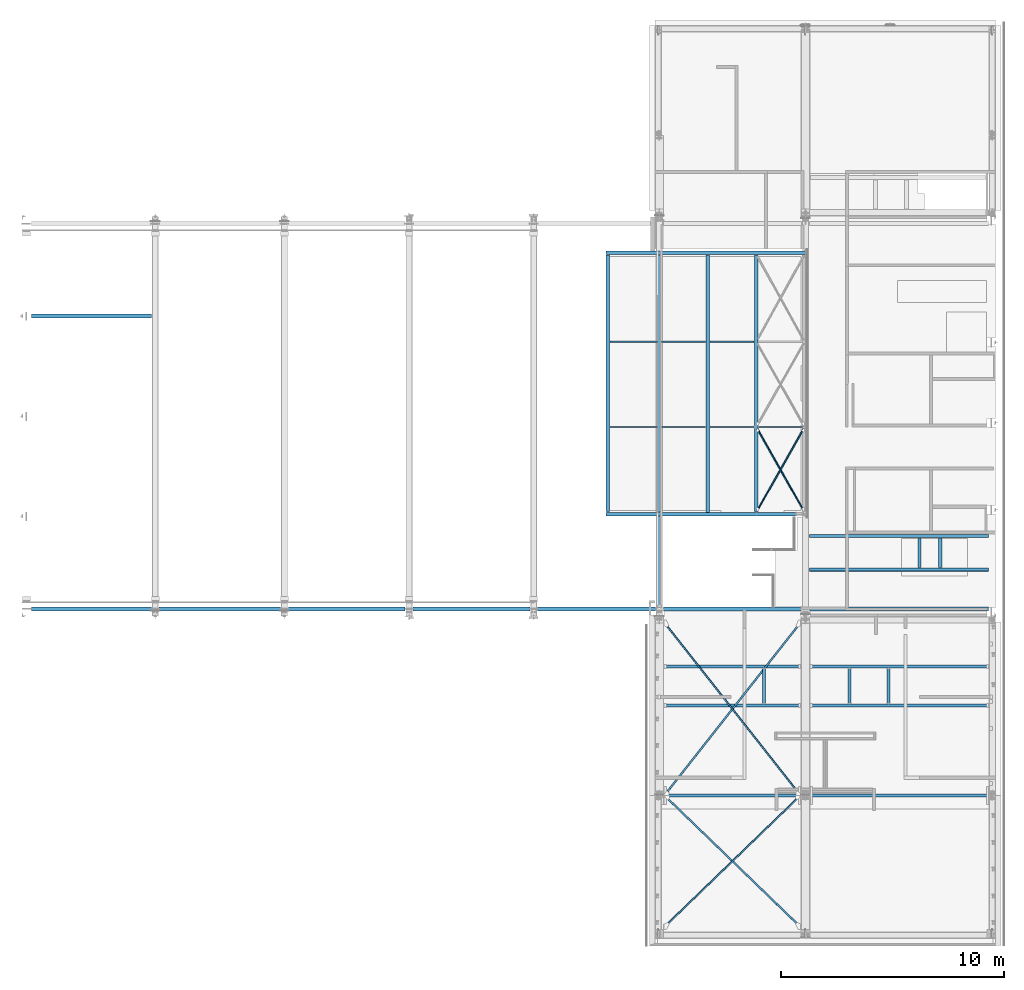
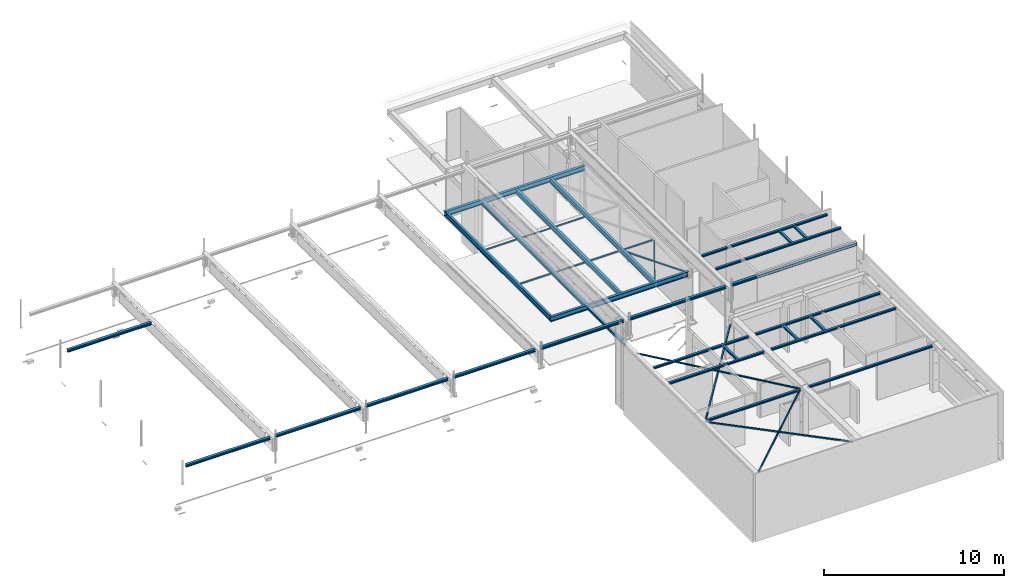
# One storey, part 6 of 186: 41 beams.
"""IFC4X3_ADD2 building model written with IfcOpenShell, lengths in millimetres."""

import ifcopenshell
import ifcopenshell.guid

model = None  # the IFC model being written
_history = None  # IfcOwnerHistory: only IFC2X3 demands one
_inside = {}  # id of a spatial element -> (the spatial element, [elements in it])
_under = {}  # id of a project, library or spatial element -> (it, [spatial elements below it])
_declared = {}  # id of a project -> (the project, [libraries it declares])
_typed = {}  # id of a type object -> (the type object, [elements of that type])
_made_of = {}  # id of a material, layer set ... -> (it, [elements and type objects made of it])


def new_model(schema):
    """Start an empty IFC model of exactly this schema.

    Asked for "IFC4X3", IfcOpenShell would pick the latest addendum, in which some entities
    have other attributes; the version numbers below select the first issue.
    IFC2X3 requires an IfcOwnerHistory on every rooted entity: one is made here for all.
    """
    global model, _history
    if schema == "IFC4X3":
        model = ifcopenshell.file(schema_version=(4, 3, 0, 0))
    else:
        model = ifcopenshell.file(schema=schema)
    _inside.clear()
    _under.clear()
    _declared.clear()
    _typed.clear()
    _made_of.clear()
    _history = None
    if model.schema == "IFC2X3":
        org = make("IfcOrganization", Name="unknown")
        user = make(
            "IfcPersonAndOrganization",
            ThePerson=make("IfcPerson", FamilyName="unknown"),
            TheOrganization=org,
        )
        app = make(
            "IfcApplication",
            ApplicationDeveloper=org,
            Version="unknown",
            ApplicationFullName="unknown",
            ApplicationIdentifier="unknown",
        )
        _history = make(
            "IfcOwnerHistory",
            OwningUser=user,
            OwningApplication=app,
            ChangeAction="ADDED",
            CreationDate=0,
        )
    return model


def make(cls, **values):
    """One entity of the class cls with the attributes given. An attribute that is None is left unset."""
    return model.create_entity(
        cls, **{name: value for name, value in values.items() if value is not None}
    )


def rooted(cls, **values):
    """An entity with a GlobalId (a new one), such as an element, a storey or a relation."""
    return make(cls, GlobalId=ifcopenshell.guid.new(), OwnerHistory=_history, **values)


def si_unit(unit_type, name, prefix=None):
    """IfcSIUnit, for example si_unit("LENGTHUNIT", "METRE", prefix="MILLI")."""
    return make("IfcSIUnit", UnitType=unit_type, Prefix=prefix, Name=name)


def assignment(units):
    """IfcUnitAssignment: the units of a project."""
    return None if units is None else make("IfcUnitAssignment", Units=units)


def point(xyz):
    """IfcCartesianPoint."""
    return None if xyz is None else make("IfcCartesianPoint", Coordinates=xyz)


def direction(xyz):
    """IfcDirection."""
    return None if xyz is None else make("IfcDirection", DirectionRatios=xyz)


def frame(location, z_axis=None, x_axis=None):
    """IfcAxis2Placement3D, a coordinate frame: its origin and axes. An axis left out is left unset."""
    return make(
        "IfcAxis2Placement3D",
        Location=point(location),
        Axis=direction(z_axis),
        RefDirection=direction(x_axis),
    )


def frame_2d(location, x_axis=None):
    """IfcAxis2Placement2D, a coordinate frame in the plane: its origin and x axis."""
    return make(
        "IfcAxis2Placement2D", Location=point(location), RefDirection=direction(x_axis)
    )


def origin_with_axes():
    """The frame at (0, 0, 0) with the z axis (0, 0, 1) and the x axis (1, 0, 0) written out."""
    return frame((0.0, 0.0, 0.0), z_axis=(0.0, 0.0, 1.0), x_axis=(1.0, 0.0, 0.0))


def place(relative_to, where):
    """IfcLocalPlacement: puts the frame where relative to a parent placement (None: the world)."""
    return make(
        "IfcLocalPlacement", PlacementRelTo=relative_to, RelativePlacement=where
    )


def context(
    kind, dimensions, precision=None, world=None, true_north=None, identifier=None
):
    """IfcGeometricRepresentationContext, for example the 3D "Model" context."""
    return make(
        "IfcGeometricRepresentationContext",
        ContextIdentifier=identifier,
        ContextType=kind,
        CoordinateSpaceDimension=dimensions,
        Precision=precision,
        WorldCoordinateSystem=world,
        TrueNorth=true_north,
    )


def subcontext(parent, identifier, kind, view, scale=None):
    """IfcGeometricRepresentationSubContext, for example "Body" below "Model"."""
    return make(
        "IfcGeometricRepresentationSubContext",
        ContextIdentifier=identifier,
        ContextType=kind,
        ParentContext=parent,
        TargetScale=scale,
        TargetView=view,
    )


def project(units=None, contexts=None):
    """IfcProject with its units and contexts."""
    return rooted(
        "IfcProject",
        Name="project",
        RepresentationContexts=contexts,
        UnitsInContext=assignment(units),
    )


def spatial(cls, under=None, at=None, **own):
    """A site, building, storey or space (cls), placed at a placement, below another one or the project."""
    s = rooted(cls, ObjectPlacement=at, **own)
    if under is not None:
        _under.setdefault(under.id(), (under, []))[1].append(s)
    return s


def polyline(points):
    """IfcPolyline through the points."""
    return make("IfcPolyline", Points=[point(p) for p in points])


def circle_curve(where, radius):
    """IfcCircle in the frame where."""
    return make("IfcCircle", Position=where, Radius=radius)


def trimmed(basis, trim1, trim2, sense, master):
    """IfcTrimmedCurve: the piece of a basis curve between two trims."""
    return make(
        "IfcTrimmedCurve",
        BasisCurve=basis,
        Trim1=trim1,
        Trim2=trim2,
        SenseAgreement=sense,
        MasterRepresentation=master,
    )


def segment(curve, same_sense, transition):
    """IfcCompositeCurveSegment."""
    return make(
        "IfcCompositeCurveSegment",
        Transition=transition,
        SameSense=same_sense,
        ParentCurve=curve,
    )


def composite_curve(segments, self_intersect=None):
    """IfcCompositeCurve: segments joined end to end."""
    return make("IfcCompositeCurve", Segments=segments, SelfIntersect=self_intersect)


def profile(cls, at=None, kind="AREA", **sizes):
    """A parametric profile (cls). Its sizes go by their IFC names, for example OverallWidth=200.0."""
    return make(cls, ProfileType=kind, Position=at, **sizes)


def i_section(**sizes):
    """IfcIShapeProfileDef."""
    return profile("IfcIShapeProfileDef", **sizes)


def l_section(**sizes):
    """IfcLShapeProfileDef."""
    return profile("IfcLShapeProfileDef", **sizes)


def outline(outer, holes=None, kind="AREA"):
    """IfcArbitraryClosedProfileDef: a profile drawn as a closed curve; with holes, ...WithVoids."""
    if holes is None:
        return make("IfcArbitraryClosedProfileDef", ProfileType=kind, OuterCurve=outer)
    return make(
        "IfcArbitraryProfileDefWithVoids",
        ProfileType=kind,
        OuterCurve=outer,
        InnerCurves=holes,
    )


def extrude(swept, where, along, depth):
    """IfcExtrudedAreaSolid: the profile swept, set in the frame where, extruded along a direction by depth."""
    return make(
        "IfcExtrudedAreaSolid",
        SweptArea=swept,
        Position=where,
        ExtrudedDirection=direction(along),
        Depth=depth,
    )


def boolean(op, a, b):
    """IfcBooleanResult of two solids."""
    return make("IfcBooleanResult", Operator=op, FirstOperand=a, SecondOperand=b)


def shape(context_of_items, identifier, shape_type, items):
    """IfcShapeRepresentation: the items that make up one representation, for example the "Body"."""
    return make(
        "IfcShapeRepresentation",
        ContextOfItems=context_of_items,
        RepresentationIdentifier=identifier,
        RepresentationType=shape_type,
        Items=items,
    )


def material(Name=None, Category=None):
    """IfcMaterial."""
    return make("IfcMaterial", Name=Name, Category=Category)


def made_of(thing, what):
    """Note that an element or type object is made of a material, layer set ...; save() writes the relation."""
    if what is not None:
        _made_of.setdefault(what.id(), (what, []))[1].append(thing)
    return thing


def type_object(cls, material=None, **own):
    """A type object (cls), such as IfcWallType, which elements share."""
    return made_of(rooted(cls, **own), material)


def element(
    cls,
    number,
    at=None,
    inside=None,
    cuts=None,
    type_object=None,
    material=None,
    context=None,
    identifier="Body",
    shape_type=None,
    held_by="IfcProductDefinitionShape",
    body=None,
    shapes=None,
    **own,
):
    """One element of the class cls, such as IfcWall. Its Tag is "e" and its number.

    at: its placement. inside: the storey or other place that contains it. cuts: it is an
    opening in that element (IfcRelVoidsElement). A single representation is given by context,
    identifier, shape_type and body (its items); several are given by shapes. held_by: the class
    of the entity that holds the representations. save() writes the other relations.
    """
    e = rooted(cls, Tag="e%d" % number, ObjectPlacement=at, **own)
    if body is not None:
        shapes = [shape(context, identifier, shape_type, body)]
    if shapes is not None:
        e.Representation = make(held_by, Representations=shapes)
    if inside is not None:
        _inside.setdefault(inside.id(), (inside, []))[1].append(e)
    if cuts is not None:
        rooted(
            "IfcRelVoidsElement", RelatingBuildingElement=cuts, RelatedOpeningElement=e
        )
    if type_object is not None:
        _typed.setdefault(type_object.id(), (type_object, []))[1].append(e)
    return made_of(e, material)


def aggregate(whole, parts):
    """IfcRelAggregates: a whole, such as a stair, and the parts it consists of."""
    return rooted("IfcRelAggregates", RelatingObject=whole, RelatedObjects=parts)


def save(model, path):
    """Write the relations noted so far, then the file.

    IfcRelAggregates (storeys below a building ...), IfcRelContainedInSpatialStructure (elements
    in a storey), IfcRelDefinesByType, IfcRelAssociatesMaterial and IfcRelDeclares: one each for
    every whole, place, type object, material and project.
    """
    for whole, parts in _under.values():
        aggregate(whole, parts)
    for where, things in _inside.values():
        rooted(
            "IfcRelContainedInSpatialStructure",
            RelatedElements=things,
            RelatingStructure=where,
        )
    for kind, things in _typed.values():
        rooted("IfcRelDefinesByType", RelatedObjects=things, RelatingType=kind)
    for what, things in _made_of.values():
        rooted("IfcRelAssociatesMaterial", RelatedObjects=things, RelatingMaterial=what)
    for by, libraries in _declared.values():
        rooted("IfcRelDeclares", RelatingContext=by, RelatedDefinitions=libraries)
    model.write(path)


model = new_model("IFC4X3_ADD2")

# Units and contexts
model_context = context("Model", 3, precision=1e-05, world=origin_with_axes(), true_north=direction((0.0, 1.0)))
body_context = subcontext(model_context, "Body", "Model", "MODEL_VIEW")
ifc_project = project(units=[si_unit("LENGTHUNIT", "METRE", prefix="MILLI"), si_unit("AREAUNIT", "SQUARE_METRE"), si_unit("VOLUMEUNIT", "CUBIC_METRE"), si_unit("PLANEANGLEUNIT", "RADIAN"), si_unit("TIMEUNIT", "SECOND"), si_unit("MASSUNIT", "GRAM")], contexts=[model_context])

# Site, building, storey
site_placement = place(None, origin_with_axes())
site = spatial("IfcSite", under=ifc_project, at=site_placement, Name="Site", CompositionType="ELEMENT")
building_placement = place(site_placement, origin_with_axes())
building = spatial("IfcBuilding", under=site, at=building_placement, Name="IFC Building Story")
storey_placement = place(building_placement, frame((0.0, 0.0, 4370.0), z_axis=(0.0, 0.0, 1.0), x_axis=(1.0, 0.0, 0.0)))
storey = spatial("IfcBuildingStorey", under=building, at=storey_placement, Name="ETAGE 10 (1)", Elevation=4370.0)

# Beams
ifc_material = material(Name="BS_28_Métal")
beam_type = type_object("IfcBeamType", Name="L60x4", PredefinedType="NOTDEFINED")
beam_1_placement = place(storey_placement, frame((37801.0503464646, 4758.135299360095, 3105.999999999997), z_axis=(0.4924042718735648, 0.8703666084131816, 0.0), x_axis=(0.0, 0.0, -1.0)))
element("IfcBeam", 1, at=beam_1_placement, inside=storey, type_object=beam_type, material=ifc_material, Name="BS_28_SF_LE_Cornière à ailes égales:L60x4", ObjectType="L60x4", context=body_context, shape_type="CSG", body=[
    boolean("UNION", boolean("DIFFERENCE", extrude(l_section(Depth=60.0, Width=60.00000000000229, Thickness=3.999999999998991, FilletRadius=8.00000000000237, EdgeRadius=3.00000000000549, LegSlope=0.0, at=frame_2d((0.0, 5.95523630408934e-12), x_axis=(1.0, 0.0))), origin_with_axes(), (0.0, 0.0, 1.0), 4224.735897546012), extrude(outline(composite_curve([segment(trimmed(circle_curve(frame_2d((-27.28571428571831, -0.428571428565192), x_axis=(1.0, 0.0)), 3.000000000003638), [point((-27.28571428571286, -3.428571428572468))], [point((-24.28571428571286, -0.428571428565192))], True, "CARTESIAN"), True, "CONTINUOUS"), segment(polyline([(-24.28571428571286, -0.428571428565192), (-24.28571428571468, 8.571428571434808)]), True, "CONTINUOUS"), segment(trimmed(circle_curve(frame_2d((-16.28571428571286, 8.571428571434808), x_axis=(1.0, 0.0)), 8.000000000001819), [point((-24.28571428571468, 8.571428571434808))], [point((-16.28571428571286, 0.571428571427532))], True, "CARTESIAN"), True, "CONTINUOUS"), segment(polyline([(-16.28571428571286, 0.571428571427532), (28.7142857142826, 0.571428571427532)]), True, "CONTINUOUS"), segment(trimmed(circle_curve(frame_2d((28.7142857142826, -2.428571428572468), x_axis=(1.0, 0.0)), 3.000000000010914), [point((28.7142857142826, 0.571428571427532))], [point((31.71428571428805, -2.428571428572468))], False, "CARTESIAN"), True, "CONTINUOUS"), segment(polyline([(31.71428571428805, -2.428571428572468), (31.71428571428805, -3.428571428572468)]), True, "CONTINUOUS"), segment(polyline([(31.71428571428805, -3.428571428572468), (-27.28571428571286, -3.428571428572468)]), True, "CONTINUOUS")], self_intersect=False)), frame((-1.714285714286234, -26.57142857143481, 0.0), z_axis=(0.0, 0.0, 1.0), x_axis=(1.0, 0.0, 0.0)), (0.0, 0.0, 1.0), 4224.735897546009)), extrude(outline(composite_curve([segment(trimmed(circle_curve(frame_2d((-27.28571428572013, 0.4285714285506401), x_axis=(1.0, 0.0)), 3.000000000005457), [point((-24.28571428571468, 0.4285714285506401))], [point((-27.28571428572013, 3.428571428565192))], True, "CARTESIAN"), True, "CONTINUOUS"), segment(polyline([(-27.28571428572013, 3.428571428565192), (31.71428571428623, 3.428571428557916)]), True, "CONTINUOUS"), segment(polyline([(31.71428571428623, 3.428571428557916), (31.71428571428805, 2.428571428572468)]), True, "CONTINUOUS"), segment(trimmed(circle_curve(frame_2d((28.7142857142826, 2.428571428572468), x_axis=(1.0, 0.0)), 3.000000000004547), [point((31.71428571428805, 2.428571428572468))], [point((28.71428571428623, -0.571428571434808))], False, "CARTESIAN"), True, "CONTINUOUS"), segment(polyline([(28.71428571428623, -0.571428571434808), (-16.28571428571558, -0.571428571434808)]), True, "CONTINUOUS"), segment(trimmed(circle_curve(frame_2d((-16.28571428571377, -8.571428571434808), x_axis=(1.0, 0.0)), 8.0), [point((-16.28571428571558, -0.571428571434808))], [point((-24.28571428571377, -8.571428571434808))], True, "CARTESIAN"), True, "CONTINUOUS"), segment(polyline([(-24.28571428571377, -8.571428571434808), (-24.28571428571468, 0.4285714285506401)]), True, "CONTINUOUS")], self_intersect=False)), frame((-1.714285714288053, 26.57142857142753, 1.818989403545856e-12), z_axis=(0.0, 0.0, 1.0), x_axis=(1.0, 0.0, 0.0)), (0.0, 0.0, 1.0), 4224.735897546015)),
])
beam_2_placement = place(storey_placement, frame((37801.05034646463, 8435.204353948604, 3170.0), z_axis=(0.4924042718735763, -0.870366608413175, 0.0), x_axis=(-0.870366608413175, -0.4924042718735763, 0.0)))
element("IfcBeam", 2, at=beam_2_placement, inside=storey, type_object=beam_type, material=ifc_material, Name="BS_28_SF_LE_Cornière à ailes égales:L60x4", ObjectType="L60x4", context=body_context, shape_type="CSG", body=[
    boolean("UNION", boolean("DIFFERENCE", extrude(l_section(Depth=60.0, Width=60.00000000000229, Thickness=3.999999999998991, FilletRadius=8.00000000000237, EdgeRadius=3.00000000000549, LegSlope=0.0, at=frame_2d((0.0, 5.95523630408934e-12), x_axis=(1.0, 0.0))), origin_with_axes(), (0.0, 0.0, 1.0), 4224.735897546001), extrude(outline(composite_curve([segment(polyline([(-24.28571428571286, -0.428571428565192), (-24.28571428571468, 8.571428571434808)]), True, "CONTINUOUS"), segment(trimmed(circle_curve(frame_2d((-16.28571428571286, 8.571428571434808), x_axis=(1.0, 0.0)), 8.0), [point((-24.28571428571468, 8.571428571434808))], [point((-16.28571428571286, 0.571428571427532))], True, "CARTESIAN"), True, "CONTINUOUS"), segment(polyline([(-16.28571428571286, 0.571428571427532), (28.7142857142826, 0.571428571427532)]), True, "CONTINUOUS"), segment(trimmed(circle_curve(frame_2d((28.7142857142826, -2.428571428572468), x_axis=(1.0, 0.0)), 3.000000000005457), [point((28.7142857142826, 0.571428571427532))], [point((31.71428571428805, -2.428571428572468))], False, "CARTESIAN"), True, "CONTINUOUS"), segment(polyline([(31.71428571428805, -2.428571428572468), (31.71428571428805, -3.428571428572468)]), True, "CONTINUOUS"), segment(polyline([(31.71428571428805, -3.428571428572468), (-27.28571428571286, -3.428571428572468)]), True, "CONTINUOUS"), segment(trimmed(circle_curve(frame_2d((-27.28571428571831, -0.428571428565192), x_axis=(1.0, 0.0)), 3.000000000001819), [point((-27.28571428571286, -3.428571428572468))], [point((-24.28571428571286, -0.428571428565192))], True, "CARTESIAN"), True, "CONTINUOUS")], self_intersect=False)), frame((-1.714285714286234, -26.57142857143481, 0.0), z_axis=(0.0, 0.0, 1.0), x_axis=(1.0, 0.0, 0.0)), (0.0, 0.0, 1.0), 4224.735897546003)), extrude(outline(composite_curve([segment(polyline([(-24.28571428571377, -8.571428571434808), (-24.28571428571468, 0.4285714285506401)]), True, "CONTINUOUS"), segment(trimmed(circle_curve(frame_2d((-27.28571428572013, 0.4285714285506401), x_axis=(1.0, 0.0)), 3.000000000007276), [point((-24.28571428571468, 0.4285714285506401))], [point((-27.28571428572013, 3.428571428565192))], True, "CARTESIAN"), True, "CONTINUOUS"), segment(polyline([(-27.28571428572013, 3.428571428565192), (31.71428571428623, 3.428571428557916)]), True, "CONTINUOUS"), segment(polyline([(31.71428571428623, 3.428571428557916), (31.71428571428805, 2.428571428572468)]), True, "CONTINUOUS"), segment(trimmed(circle_curve(frame_2d((28.7142857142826, 2.428571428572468), x_axis=(1.0, 0.0)), 3.0), [point((31.71428571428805, 2.428571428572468))], [point((28.71428571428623, -0.571428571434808))], False, "CARTESIAN"), True, "CONTINUOUS"), segment(polyline([(28.71428571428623, -0.571428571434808), (-16.28571428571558, -0.571428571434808)]), True, "CONTINUOUS"), segment(trimmed(circle_curve(frame_2d((-16.28571428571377, -8.571428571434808), x_axis=(1.0, 0.0)), 8.0), [point((-16.28571428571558, -0.571428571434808))], [point((-24.28571428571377, -8.571428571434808))], True, "CARTESIAN"), True, "CONTINUOUS")], self_intersect=False)), frame((-1.714285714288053, 26.57142857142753, 1.818989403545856e-12), z_axis=(0.0, 0.0, 1.0), x_axis=(1.0, 0.0, 0.0)), (0.0, 0.0, 1.0), 4224.735897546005)),
])
beam_3_placement = place(storey_placement, frame((10581.1893482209, 344.5794044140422, 4916.221120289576), z_axis=(-1.0, 0.0, 0.0), x_axis=(0.0, -0.9998873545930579, 0.01500926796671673)))
element("IfcBeam", 3, at=beam_3_placement, inside=storey, material=ifc_material, Name="BS_28_SF_LE_HE-A:HEA180", ObjectType="HEA180", context=body_context, shape_type="SweptSolid", body=[
    extrude(i_section(OverallWidth=180.0, OverallDepth=170.999999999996, WebThickness=5.999999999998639, FlangeThickness=9.50000000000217, FilletRadius=15.0000000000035, at=frame_2d((0.0, 5.95523630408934e-12), x_axis=(1.0, 0.0))), origin_with_axes(), (0.0, 0.0, 1.0), 5395.000000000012),
])
beam_4_placement = place(storey_placement, frame((16381.18884822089, 344.5794044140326, 4916.221120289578), z_axis=(-1.0, 0.0, 0.0), x_axis=(0.0, -0.9998873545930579, 0.01500926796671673)))
element("IfcBeam", 4, at=beam_4_placement, inside=storey, material=ifc_material, Name="BS_28_SF_LE_HE-A:HEA180", ObjectType="HEA180", context=body_context, shape_type="SweptSolid", body=[
    extrude(i_section(OverallWidth=180.0, OverallDepth=170.999999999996, WebThickness=5.999999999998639, FlangeThickness=9.50000000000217, FilletRadius=15.0000000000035, at=frame_2d((0.0, 5.95523630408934e-12), x_axis=(1.0, 0.0))), origin_with_axes(), (0.0, 0.0, 1.0), 5450.000000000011),
])
beam_5_placement = place(storey_placement, frame((21981.18884822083, 344.579329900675, 4916.223094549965), z_axis=(-1.0, 0.0, 0.0), x_axis=(0.0, -0.9998873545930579, 0.01500926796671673)))
element("IfcBeam", 5, at=beam_5_placement, inside=storey, material=ifc_material, Name="BS_28_SF_LE_HE-A:HEA180", ObjectType="HEA180", context=body_context, shape_type="SweptSolid", body=[
    extrude(i_section(OverallWidth=180.0, OverallDepth=170.999999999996, WebThickness=5.999999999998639, FlangeThickness=9.50000000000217, FilletRadius=15.0000000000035, at=frame_2d((0.0, 5.95523630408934e-12), x_axis=(1.0, 0.0))), origin_with_axes(), (0.0, 0.0, 1.0), 5250.000000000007),
])
beam_6_placement = place(storey_placement, frame((27581.18884821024, 344.579329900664, 4916.223094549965), z_axis=(-1.0, 0.0, 0.0), x_axis=(0.0, -0.9998873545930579, 0.01500926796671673)))
element("IfcBeam", 6, at=beam_6_placement, inside=storey, material=ifc_material, Name="BS_28_SF_LE_HE-A:HEA180", ObjectType="HEA180", context=body_context, shape_type="SweptSolid", body=[
    extrude(i_section(OverallWidth=180.0, OverallDepth=170.999999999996, WebThickness=5.999999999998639, FlangeThickness=9.50000000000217, FilletRadius=15.0000000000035, at=frame_2d((0.0, 5.95523630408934e-12), x_axis=(1.0, 0.0))), origin_with_axes(), (0.0, 0.0, 1.0), 5250.000000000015),
])
beam_7_placement = place(storey_placement, frame((33231.18884822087, 344.5793299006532, 4916.223094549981), z_axis=(-1.0, 0.0, 0.0), x_axis=(0.0, -0.9998873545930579, 0.01500926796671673)))
element("IfcBeam", 7, at=beam_7_placement, inside=storey, material=ifc_material, Name="BS_28_SF_LE_HE-A:HEA180", ObjectType="HEA180", context=body_context, shape_type="SweptSolid", body=[
    extrude(i_section(OverallWidth=180.0, OverallDepth=170.999999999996, WebThickness=5.999999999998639, FlangeThickness=9.50000000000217, FilletRadius=15.0000000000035, at=frame_2d((0.0, 5.95523630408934e-12), x_axis=(1.0, 0.0))), origin_with_axes(), (0.0, 0.0, 1.0), 5299.966051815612),
])
beam_8_placement = place(storey_placement, frame((39791.18884821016, 344.5794340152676, 4916.223092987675), z_axis=(-1.0, 0.0, 0.0), x_axis=(0.0, -0.9998873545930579, 0.01500926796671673)))
element("IfcBeam", 8, at=beam_8_placement, inside=storey, material=ifc_material, Name="BS_28_SF_LE_HE-A:HEA180", ObjectType="HEA180", context=body_context, shape_type="SweptSolid", body=[
    extrude(i_section(OverallWidth=180.0, OverallDepth=170.999999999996, WebThickness=5.999999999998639, FlangeThickness=9.50000000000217, FilletRadius=15.0000000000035, at=frame_2d((0.0, 5.95523630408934e-12), x_axis=(1.0, 0.0))), origin_with_axes(), (0.0, 0.0, 1.0), 6210.000000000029),
])
beam_9_placement = place(storey_placement, frame((48191.1888482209, 344.5794340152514, 4916.223092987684), z_axis=(-1.0, 0.0, 0.0), x_axis=(0.0, -0.9998873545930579, 0.01500926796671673)))
element("IfcBeam", 9, at=beam_9_placement, inside=storey, material=ifc_material, Name="BS_28_SF_LE_HE-A:HEA180", ObjectType="HEA180", context=body_context, shape_type="SweptSolid", body=[
    extrude(i_section(OverallWidth=180.0, OverallDepth=170.999999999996, WebThickness=5.999999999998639, FlangeThickness=9.50000000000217, FilletRadius=15.0000000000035, at=frame_2d((0.0, 5.95523630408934e-12), x_axis=(1.0, 0.0))), origin_with_axes(), (0.0, 0.0, 1.0), 8045.000000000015),
])
beam_10_placement = place(storey_placement, frame((31081.1893483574, 4708.809479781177, 3224.999999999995), z_axis=(0.0, 1.0, 0.0), x_axis=(-1.0, 0.0, 0.0)))
element("IfcBeam", 10, at=beam_10_placement, inside=storey, material=ifc_material, Name="BS_28_SF_LE_IPE:IPE330", ObjectType="IPE330", context=body_context, shape_type="SweptSolid", body=[
    extrude(i_section(OverallWidth=159.999999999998, OverallDepth=330.000000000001, WebThickness=7.50000000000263, FlangeThickness=11.5000000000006, FilletRadius=18.0000000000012, at=frame_2d((0.0, 5.95523630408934e-12), x_axis=(1.0, 0.0))), origin_with_axes(), (0.0, 0.0, 1.0), 11525.720693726),
])
beam_11_placement = place(storey_placement, frame((31001.6894784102, 16344.5000000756, 3224.999999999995), z_axis=(1.0, 0.0, 0.0), x_axis=(0.0, 1.0, 0.0)))
element("IfcBeam", 11, at=beam_11_placement, inside=storey, material=ifc_material, Name="BS_28_SF_LE_IPE:IPE330", ObjectType="IPE330", context=body_context, shape_type="SweptSolid", body=[
    extrude(i_section(OverallWidth=159.999999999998, OverallDepth=330.000000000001, WebThickness=7.50000000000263, FlangeThickness=11.5000000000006, FilletRadius=18.0000000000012, at=frame_2d((0.0, 5.95523630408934e-12), x_axis=(1.0, 0.0))), origin_with_axes(), (0.0, 0.0, 1.0), 9015.499999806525),
])
beam_12_placement = place(storey_placement, frame((31001.6894781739, 4598.839653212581, 3224.999999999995), z_axis=(1.0, 0.0, 0.0), x_axis=(0.0, 1.0, 0.0)))
element("IfcBeam", 12, at=beam_12_placement, inside=storey, material=ifc_material, Name="BS_28_SF_LE_IPE:IPE330", ObjectType="IPE330", context=body_context, shape_type="SweptSolid", body=[
    extrude(i_section(OverallWidth=159.999999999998, OverallDepth=330.000000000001, WebThickness=7.50000000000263, FlangeThickness=11.5000000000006, FilletRadius=18.0000000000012, at=frame_2d((0.0, 5.95523630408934e-12), x_axis=(1.0, 0.0))), origin_with_axes(), (0.0, 0.0, 1.0), 8828.999870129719),
])
beam_13_placement = place(storey_placement, frame((33401.1893482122, 4708.809479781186, 3224.999999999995), z_axis=(0.0, 1.0, 0.0), x_axis=(-1.0, 0.0, 0.0)))
element("IfcBeam", 13, at=beam_13_placement, inside=storey, material=ifc_material, Name="BS_28_SF_LE_IPE:IPE330", ObjectType="IPE330", context=body_context, shape_type="SweptSolid", body=[
    extrude(i_section(OverallWidth=159.999999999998, OverallDepth=330.000000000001, WebThickness=7.50000000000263, FlangeThickness=11.5000000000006, FilletRadius=18.0000000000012, at=frame_2d((0.0, 5.95523630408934e-12), x_axis=(1.0, 0.0))), origin_with_axes(), (0.0, 0.0, 1.0), 11525.720693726),
])
beam_14_placement = place(storey_placement, frame((35576.1893482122, 4678.820531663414, 3224.999999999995), z_axis=(0.0, 1.0, 0.0), x_axis=(-1.0, 0.0, 0.0)))
element("IfcBeam", 14, at=beam_14_placement, inside=storey, material=ifc_material, Name="BS_28_SF_LE_IPE:IPE330", ObjectType="IPE330", context=body_context, shape_type="SweptSolid", body=[
    extrude(i_section(OverallWidth=159.999999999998, OverallDepth=330.000000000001, WebThickness=7.50000000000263, FlangeThickness=11.5000000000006, FilletRadius=18.0000000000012, at=frame_2d((0.0, 5.95523630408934e-12), x_axis=(1.0, 0.0))), origin_with_axes(), (0.0, 0.0, 1.0), 11555.728763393),
])
beam_15_placement = place(storey_placement, frame((40191.20335809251, -8034.782657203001, 3050.254321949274), z_axis=(1.0, 0.0, 0.0), x_axis=(0.0, 0.9998873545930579, -0.01500926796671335)))
element("IfcBeam", 15, at=beam_15_placement, inside=storey, material=ifc_material, Name="BS_28_SF_LE_HE-A:HEA140", ObjectType="HEA140", context=body_context, shape_type="SweptSolid", body=[
    extrude(i_section(OverallWidth=140.0, OverallDepth=133.000000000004, WebThickness=5.499999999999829, FlangeThickness=8.49999999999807, FilletRadius=11.9999999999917, at=frame_2d((0.0, 5.95523630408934e-12), x_axis=(1.0, 0.0))), origin_with_axes(), (0.0, 0.0, 1.0), 7995.98763944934),
])
beam_16_placement = place(storey_placement, frame((33626.23560970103, -8034.782552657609, 3050.254320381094), z_axis=(1.0, 0.0, 0.0), x_axis=(0.0, 0.9998873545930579, -0.01500926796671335)))
element("IfcBeam", 16, at=beam_16_placement, inside=storey, material=ifc_material, Name="BS_28_SF_LE_HE-A:HEA140", ObjectType="HEA140", context=body_context, shape_type="SweptSolid", body=[
    extrude(i_section(OverallWidth=140.0, OverallDepth=133.000000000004, WebThickness=5.499999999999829, FlangeThickness=8.49999999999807, FilletRadius=11.9999999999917, at=frame_2d((0.0, 5.95523630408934e-12), x_axis=(1.0, 0.0))), origin_with_axes(), (0.0, 0.0, 1.0), 6114.901779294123),
])
beam_17_placement = place(storey_placement, frame((39693.04455674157, -8080.56852886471, 3094.267108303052), z_axis=(-0.7191126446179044, -0.6948384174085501, 0.008750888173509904), x_axis=(0.694893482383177, -0.7190597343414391, 0.008726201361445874)))
element("IfcBeam", 17, at=beam_17_placement, inside=storey, material=ifc_material, Name="BS_28_SF_LE_Cornière à ailes égales:L80x8", ObjectType="L80x8", context=body_context, shape_type="SweptSolid", body=[
    extrude(l_section(Depth=80.0000000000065, Width=80.00000000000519, Thickness=7.999999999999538, FilletRadius=9.99999999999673, EdgeRadius=4.99999999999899, LegSlope=0.0, at=frame_2d((0.0, 5.95523630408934e-12), x_axis=(1.0, 0.0))), origin_with_axes(), (0.0, 0.0, 1.0), 8369.647385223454),
])
beam_18_placement = place(storey_placement, frame((38096.1893482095, -3899.49435631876, 3153.569700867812), z_axis=(0.0, 0.9998724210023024, -0.01597315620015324), x_axis=(-1.0, 0.0, 0.0)))
element("IfcBeam", 18, at=beam_18_placement, inside=storey, material=ifc_material, Name="BS_28_SF_LE_HE-A:HEA140", ObjectType="HEA140", context=body_context, shape_type="SweptSolid", body=[
    extrude(i_section(OverallWidth=140.0, OverallDepth=133.000000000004, WebThickness=5.499999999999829, FlangeThickness=8.49999999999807, FilletRadius=11.9999999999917, at=frame_2d((0.0, 5.95523630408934e-12), x_axis=(1.0, 0.0))), origin_with_axes(), (0.0, 0.0, 1.0), 1560.000132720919),
])
beam_19_placement = place(storey_placement, frame((10581.18934822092, 13500.22767781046, 4718.888425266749), z_axis=(-1.0, 0.0, 0.0), x_axis=(0.0, -0.9998873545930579, 0.01500926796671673)))
element("IfcBeam", 19, at=beam_19_placement, inside=storey, material=ifc_material, Name="BS_28_SF_LE_HE-A:HEA180", ObjectType="HEA180", context=body_context, shape_type="SweptSolid", body=[
    extrude(i_section(OverallWidth=180.0, OverallDepth=170.999999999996, WebThickness=5.999999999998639, FlangeThickness=9.50000000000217, FilletRadius=15.0000000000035, at=frame_2d((0.0, 5.95523630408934e-12), x_axis=(1.0, 0.0))), origin_with_axes(), (0.0, 0.0, 1.0), 5395.00000000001),
])
beam_20_placement = place(storey_placement, frame((33659.74594538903, -316.6325194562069, 2959.495971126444), z_axis=(0.6188833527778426, -0.7853611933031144, 0.01382720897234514), x_axis=(-0.001703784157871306, 0.01626120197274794, 0.9998663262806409)))
element("IfcBeam", 20, at=beam_20_placement, inside=storey, material=ifc_material, Name="BS_28_SF_LE_Cornière à ailes égales:L80x8", ObjectType="L80x8", context=body_context, shape_type="SweptSolid", body=[
    extrude(l_section(Depth=80.0000000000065, Width=80.00000000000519, Thickness=7.999999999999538, FilletRadius=9.99999999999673, EdgeRadius=4.99999999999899, LegSlope=0.0, at=frame_2d((0.0, 5.95523630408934e-12), x_axis=(1.0, 0.0))), origin_with_axes(), (0.0, 0.0, 1.0), 9772.471414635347),
])
beam_21_placement = place(storey_placement, frame((48181.18934820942, -3989.452121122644, 3155.048610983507), z_axis=(-1.0, 0.0, 0.0), x_axis=(0.0, -0.9998710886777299, 0.016056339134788)))
element("IfcBeam", 21, at=beam_21_placement, inside=storey, material=ifc_material, Name="BS_28_SF_LE_HE-A:HEA140", ObjectType="HEA140", context=body_context, shape_type="SweptSolid", body=[
    extrude(i_section(OverallWidth=140.0, OverallDepth=133.000000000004, WebThickness=5.499999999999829, FlangeThickness=8.49999999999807, FilletRadius=11.9999999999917, at=frame_2d((0.0, 5.95523630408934e-12), x_axis=(1.0, 0.0))), origin_with_axes(), (0.0, 0.0, 1.0), 7995.026741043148),
])
beam_22_placement = place(storey_placement, frame((33401.1893482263, 420.0198266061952, 3195.50000000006), z_axis=(0.0, 1.0, 0.0), x_axis=(-1.0, 0.0, 0.0)))
element("IfcBeam", 22, at=beam_22_placement, inside=storey, material=ifc_material, Name="BS_28_SF_LE_HE-A:HEA180", ObjectType="HEA180", context=body_context, shape_type="SweptSolid", body=[
    extrude(i_section(OverallWidth=180.0, OverallDepth=170.999999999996, WebThickness=5.999999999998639, FlangeThickness=9.50000000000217, FilletRadius=15.0000000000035, at=frame_2d((0.0, 5.95523630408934e-12), x_axis=(1.0, 0.0))), origin_with_axes(), (0.0, 0.0, 1.0), 4079.98017339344),
])
beam_23_placement = place(storey_placement, frame((39736.18934820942, -3989.419645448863, 3155.05044554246), z_axis=(-1.0, 0.0, 0.0), x_axis=(0.0, -0.9998710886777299, 0.016056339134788)))
element("IfcBeam", 23, at=beam_23_placement, inside=storey, material=ifc_material, Name="BS_28_SF_LE_HE-A:HEA140", ObjectType="HEA140", context=body_context, shape_type="SweptSolid", body=[
    extrude(i_section(OverallWidth=140.0, OverallDepth=133.000000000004, WebThickness=5.499999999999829, FlangeThickness=8.49999999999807, FilletRadius=11.9999999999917, at=frame_2d((0.0, 5.95523630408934e-12), x_axis=(1.0, 0.0))), origin_with_axes(), (0.0, 0.0, 1.0), 6110.000000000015),
])
beam_24_placement = place(storey_placement, frame((43691.18934820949, -3899.429400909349, 3153.620397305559), z_axis=(0.0, 0.9998721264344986, -0.01599158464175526), x_axis=(-1.0, 0.0, 0.0)))
element("IfcBeam", 24, at=beam_24_placement, inside=storey, material=ifc_material, Name="BS_28_SF_LE_HE-A:HEA140", ObjectType="HEA140", context=body_context, shape_type="SweptSolid", body=[
    extrude(i_section(OverallWidth=140.0, OverallDepth=133.000000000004, WebThickness=5.499999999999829, FlangeThickness=8.49999999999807, FilletRadius=11.9999999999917, at=frame_2d((0.0, 5.95523630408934e-12), x_axis=(1.0, 0.0))), origin_with_axes(), (0.0, 0.0, 1.0), 1560.00010899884),
])
beam_25_placement = place(storey_placement, frame((39736.15273091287, -2249.687471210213, 3127.218178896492), z_axis=(-1.0, 0.0, 0.0), x_axis=(0.0, -0.9998710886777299, 0.016056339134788)))
element("IfcBeam", 25, at=beam_25_placement, inside=storey, material=ifc_material, Name="BS_28_SF_LE_HE-A:HEA140", ObjectType="HEA140", context=body_context, shape_type="SweptSolid", body=[
    extrude(i_section(OverallWidth=140.0, OverallDepth=133.000000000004, WebThickness=5.499999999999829, FlangeThickness=8.49999999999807, FilletRadius=11.9999999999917, at=frame_2d((0.0, 5.95523630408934e-12), x_axis=(1.0, 0.0))), origin_with_axes(), (0.0, 0.0, 1.0), 6109.963382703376),
])
beam_26_placement = place(storey_placement, frame((48181.18934820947, -2249.674772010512, 3127.213821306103), z_axis=(-1.0, 0.0, 0.0), x_axis=(0.0, -0.9998710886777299, 0.016056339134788)))
element("IfcBeam", 26, at=beam_26_placement, inside=storey, material=ifc_material, Name="BS_28_SF_LE_HE-A:HEA140", ObjectType="HEA140", context=body_context, shape_type="SweptSolid", body=[
    extrude(i_section(OverallWidth=140.0, OverallDepth=133.000000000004, WebThickness=5.499999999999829, FlangeThickness=8.49999999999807, FilletRadius=11.9999999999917, at=frame_2d((0.0, 5.95523630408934e-12), x_axis=(1.0, 0.0))), origin_with_axes(), (0.0, 0.0, 1.0), 7995.000000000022),
])
beam_27_placement = place(storey_placement, frame((33674.3239222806, -8081.915806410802, 3005.306634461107), z_axis=(0.7191136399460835, -0.6948388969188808, 0.008630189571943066), x_axis=(0.000142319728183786, -0.01227219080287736, -0.999924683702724)))
element("IfcBeam", 27, at=beam_27_placement, inside=storey, material=ifc_material, Name="BS_28_SF_LE_Cornière à ailes égales:L80x8", ObjectType="L80x8", context=body_context, shape_type="SweptSolid", body=[
    extrude(l_section(Depth=80.0000000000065, Width=80.00000000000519, Thickness=7.999999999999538, FilletRadius=9.99999999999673, EdgeRadius=4.99999999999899, LegSlope=0.0, at=frame_2d((0.0, 5.95523630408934e-12), x_axis=(1.0, 0.0))), origin_with_axes(), (0.0, 0.0, 1.0), 8369.647323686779),
])
beam_28_placement = place(storey_placement, frame((39707.69763604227, -318.0362778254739, 2869.49585716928), z_axis=(-0.6188833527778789, -0.7853611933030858, 0.0138272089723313), x_axis=(-0.7854829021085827, 0.6187856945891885, -0.01099430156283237)))
element("IfcBeam", 28, at=beam_28_placement, inside=storey, material=ifc_material, Name="BS_28_SF_LE_Cornière à ailes égales:L80x8", ObjectType="L80x8", context=body_context, shape_type="SweptSolid", body=[
    extrude(l_section(Depth=80.0000000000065, Width=80.00000000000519, Thickness=7.999999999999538, FilletRadius=9.99999999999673, EdgeRadius=4.99999999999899, LegSlope=0.0, at=frame_2d((0.0, 5.95523630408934e-12), x_axis=(1.0, 0.0))), origin_with_axes(), (0.0, 0.0, 1.0), 9652.471414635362),
])
beam_29_placement = place(storey_placement, frame((37756.1893482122, 4708.809479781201, 3224.999999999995), z_axis=(0.0, 1.0, 0.0), x_axis=(-1.0, 0.0, 0.0)))
element("IfcBeam", 29, at=beam_29_placement, inside=storey, material=ifc_material, Name="BS_28_SF_LE_IPE:IPE330", ObjectType="IPE330", context=body_context, shape_type="SweptSolid", body=[
    extrude(i_section(OverallWidth=159.999999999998, OverallDepth=330.000000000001, WebThickness=7.50000000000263, FlangeThickness=11.5000000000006, FilletRadius=18.0000000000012, at=frame_2d((0.0, 5.95523630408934e-12), x_axis=(1.0, 0.0))), origin_with_axes(), (0.0, 0.0, 1.0), 11525.720693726),
])
beam_30_placement = place(storey_placement, frame((33309.18934813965, 8521.339653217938, 3109.999999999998), z_axis=(-1.0, 0.0, 0.0), x_axis=(0.0, -1.0, 0.0)))
element("IfcBeam", 30, at=beam_30_placement, inside=storey, material=ifc_material, Name="BS_28_SF_LE_IPE:IPE100", ObjectType="IPE100", context=body_context, shape_type="SweptSolid", body=[
    extrude(i_section(OverallWidth=55.000000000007, OverallDepth=100.0, WebThickness=4.09999999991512, FlangeThickness=5.70000000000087, FilletRadius=6.99999999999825, at=frame_2d((0.0, 5.95523630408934e-12), x_axis=(1.0, 0.0))), origin_with_axes(), (0.0, 0.0, 1.0), 2135.9999997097),
])
beam_31_placement = place(storey_placement, frame((33309.18934813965, 12346.3396532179, 3109.999999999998), z_axis=(-1.0, 0.0, 0.0), x_axis=(0.0, -1.0, 0.0)))
element("IfcBeam", 31, at=beam_31_placement, inside=storey, material=ifc_material, Name="BS_28_SF_LE_IPE:IPE100", ObjectType="IPE100", context=body_context, shape_type="SweptSolid", body=[
    extrude(i_section(OverallWidth=55.000000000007, OverallDepth=100.0, WebThickness=4.09999999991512, FlangeThickness=5.70000000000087, FilletRadius=6.99999999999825, at=frame_2d((0.0, 5.95523630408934e-12), x_axis=(1.0, 0.0))), origin_with_axes(), (0.0, 0.0, 1.0), 2135.999999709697),
])
for number, where, z_axis, x_axis in (
    (32, (35484.20809817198, 8521.339653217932, 3109.999999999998), (-1.0, 0.0, 0.0), (0.0, -1.0, 0.0)),
    (33, (35484.20809817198, 12346.3396532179, 3109.999999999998), (-1.0, 0.0, 0.0), (0.0, -1.0, 0.0)),
):
    element("IfcBeam", number, at=place(storey_placement, frame(where, z_axis=z_axis, x_axis=x_axis)), inside=storey, material=ifc_material, Name="BS_28_SF_LE_IPE:IPE100", ObjectType="IPE100", context=body_context, shape_type="SweptSolid", body=[
        extrude(i_section(OverallWidth=55.000000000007, OverallDepth=100.0, WebThickness=4.09999999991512, FlangeThickness=5.70000000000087, FilletRadius=6.99999999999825, at=frame_2d((0.0, 5.95523630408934e-12), x_axis=(1.0, 0.0))), origin_with_axes(), (0.0, 0.0, 1.0), 1991.037499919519),
    ])
for number, where, z_axis, x_axis in (
    (34, (37664.1987231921, 8521.339653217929, 3109.999999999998), (-1.0, 0.0, 0.0), (0.0, -1.0, 0.0)),
    (35, (37664.1987231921, 12346.3396532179, 3109.999999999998), (-1.0, 0.0, 0.0), (0.0, -1.0, 0.0)),
):
    element("IfcBeam", number, at=place(storey_placement, frame(where, z_axis=z_axis, x_axis=x_axis)), inside=storey, material=ifc_material, Name="BS_28_SF_LE_IPE:IPE100", ObjectType="IPE100", context=body_context, shape_type="SweptSolid", body=[
        extrude(i_section(OverallWidth=55.000000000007, OverallDepth=100.0, WebThickness=4.09999999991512, FlangeThickness=5.70000000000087, FilletRadius=6.99999999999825, at=frame_2d((0.0, 5.95523630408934e-12), x_axis=(1.0, 0.0))), origin_with_axes(), (0.0, 0.0, 1.0), 1996.01874995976),
    ])
beam_32_placement = place(storey_placement, frame((39834.18934820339, 8521.33965321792, 3109.999999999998), z_axis=(-1.0, 0.0, 0.0), x_axis=(0.0, -1.0, 0.0)))
element("IfcBeam", 36, at=beam_32_placement, inside=storey, material=ifc_material, Name="BS_28_SF_LE_IPE:IPE100", ObjectType="IPE100", context=body_context, shape_type="SweptSolid", body=[
    extrude(i_section(OverallWidth=55.000000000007, OverallDepth=100.0, WebThickness=4.09999999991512, FlangeThickness=5.70000000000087, FilletRadius=6.99999999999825, at=frame_2d((0.0, 5.95523630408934e-12), x_axis=(1.0, 0.0))), origin_with_axes(), (0.0, 0.0, 1.0), 1985.999999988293),
])
beam_33_placement = place(storey_placement, frame((41951.1893482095, -3899.578140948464, 3153.569865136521), z_axis=(0.0, 0.9998732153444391, -0.01592335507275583), x_axis=(-1.0, 0.0, 0.0)))
element("IfcBeam", 37, at=beam_33_placement, inside=storey, material=ifc_material, Name="BS_28_SF_LE_HE-A:HEA140", ObjectType="HEA140", context=body_context, shape_type="SweptSolid", body=[
    extrude(i_section(OverallWidth=140.0, OverallDepth=133.000000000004, WebThickness=5.499999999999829, FlangeThickness=8.49999999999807, FilletRadius=11.9999999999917, at=frame_2d((0.0, 5.95523630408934e-12), x_axis=(1.0, 0.0))), origin_with_axes(), (0.0, 0.0, 1.0), 1560.101013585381),
])
for number, where, z_axis, x_axis in (
    (38, (48186.18934820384, 3614.692321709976, 4889.288286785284), (-1.0, 0.0, 0.0), (0.0, -0.9998873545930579, 0.01500926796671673)),
    (39, (48186.18934820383, 2104.862050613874, 4911.934142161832), (-1.0, 0.0, 0.0), (0.0, -0.9998873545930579, 0.01500926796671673)),
):
    element("IfcBeam", number, at=place(storey_placement, frame(where, z_axis=z_axis, x_axis=x_axis)), inside=storey, material=ifc_material, Name="BS_28_SF_LE_HE-A:HEA140", ObjectType="HEA140", context=body_context, shape_type="SweptSolid", body=[
        extrude(i_section(OverallWidth=140.0, OverallDepth=133.000000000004, WebThickness=5.499999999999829, FlangeThickness=8.49999999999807, FilletRadius=11.9999999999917, at=frame_2d((0.0, 5.95523630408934e-12), x_axis=(1.0, 0.0))), origin_with_axes(), (0.0, 0.0, 1.0), 8045.000000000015),
    ])
for number, where, z_axis, x_axis in (
    (40, (46021.1893482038, 2194.851520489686, 4910.508418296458), (0.0, 0.9998882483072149, -0.01494961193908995), (1.0, 0.0, 0.0)),
    (41, (45081.1893482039, 2194.851520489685, 4910.508418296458), (0.0, 0.9998882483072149, -0.01494961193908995), (1.0, 0.0, 0.0)),
):
    element("IfcBeam", number, at=place(storey_placement, frame(where, z_axis=z_axis, x_axis=x_axis)), inside=storey, material=ifc_material, Name="BS_28_SF_LE_HE-A:HEA140", ObjectType="HEA140", context=body_context, shape_type="SweptSolid", body=[
        extrude(i_section(OverallWidth=140.0, OverallDepth=133.000000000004, WebThickness=5.499999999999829, FlangeThickness=8.49999999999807, FilletRadius=11.9999999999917, at=frame_2d((0.0, 5.95523630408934e-12), x_axis=(1.0, 0.0))), origin_with_axes(), (0.0, 0.0, 1.0), 1330.000001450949),
    ])

save(model, "model.ifc")
